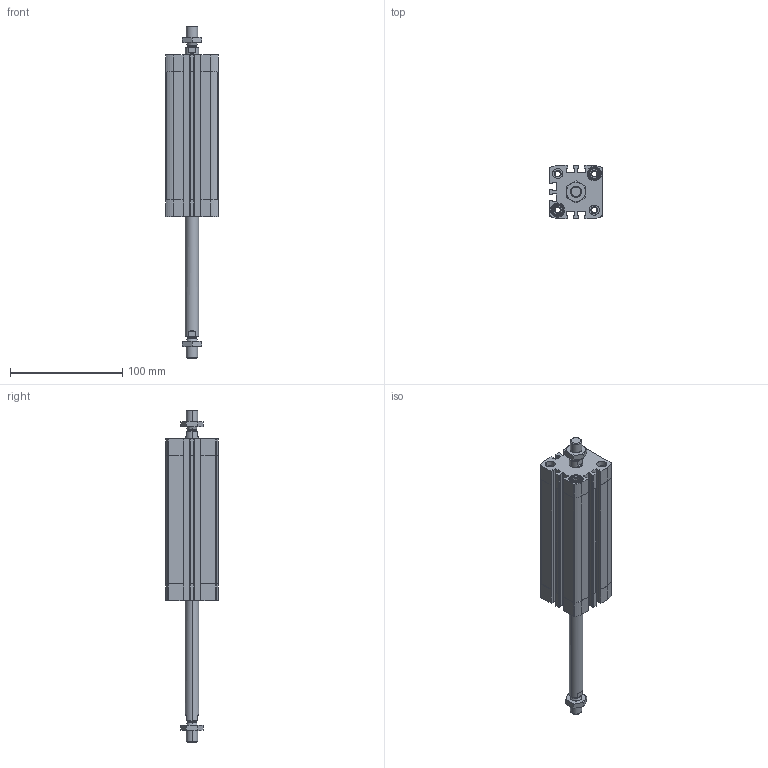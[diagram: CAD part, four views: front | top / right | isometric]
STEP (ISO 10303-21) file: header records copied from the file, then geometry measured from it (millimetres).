
FILE_DESCRIPTION (( 'STEP AP203' ), '1' );
FILE_NAME ('CCN32-100-P.STEP', '2020-06-22T18:49:47', ( '' ), ( '' ), 'SwSTEP 2.0', 'SolidWorks 2019', '' );
FILE_SCHEMA (( 'CONFIG_CONTROL_DESIGN' ));
Length unit declared in the file: millimetre
Products named in the file (1): CCN32-100-P
Bounding box: 47 x 47 x 295.5 mm (x, y, z)
Volume: 209079.1 mm3; surface area: 82522.5 mm2
Topology: 4 solids, 4 shells, 536 faces, 1418 edges, 922 vertices
Faces by surface type: plane 288, cylinder 180, cone 60, torus 8
Entity records: 17391 total; most frequent: CARTESIAN_POINT 3745, DIRECTION 2902, ORIENTED_EDGE 2836, EDGE_CURVE 1418, AXIS2_PLACEMENT_3D 1071, VERTEX_POINT 922, VECTOR 760, LINE 760
